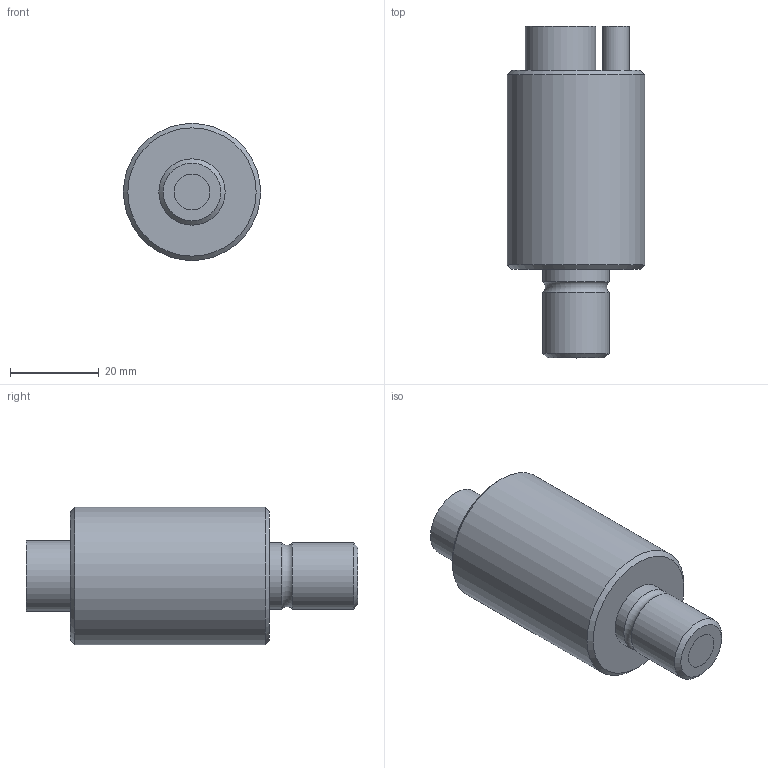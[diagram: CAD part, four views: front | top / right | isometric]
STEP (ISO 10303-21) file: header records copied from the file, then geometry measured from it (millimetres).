
FILE_DESCRIPTION(/* description */ (''),/* implementation_level */ '2;1');
FILE_NAME(/* name */ '',/* time_stamp */ '2023-02-24T17:34:30+09:00',/* author */ (''),/* organization */ (''),/* preprocessor_version */ 'ST-DEVELOPER v19.2',/* originating_system */ 'Autodesk Translation Framework v11.17.0.187',/* authorisation */ '');
FILE_SCHEMA (('AUTOMOTIVE_DESIGN { 1 0 10303 214 3 1 1 }'));
Length unit declared in the file: millimetre
Products named in the file (1): FB-LGC1-8L1000-LS50×1.0 受光部
Bounding box: 31 x 75 x 31 mm (x, y, z)
Volume: 39628.5 mm3; surface area: 8970.8 mm2
Topology: 4 solids, 4 shells, 21 faces, 28 edges, 17 vertices
Faces by surface type: plane 10, cylinder 7, cone 3, torus 1
Full cylindrical faces by diameter (mm): 6 x1, 8.1 x2, 15 x2, 16 x1, 31 x1
Entity records: 470 total; most frequent: DIRECTION 90, CARTESIAN_POINT 67, ORIENTED_EDGE 56, AXIS2_PLACEMENT_3D 40, EDGE_CURVE 28, EDGE_LOOP 23, FACE_OUTER_BOUND 21, ADVANCED_FACE 21
